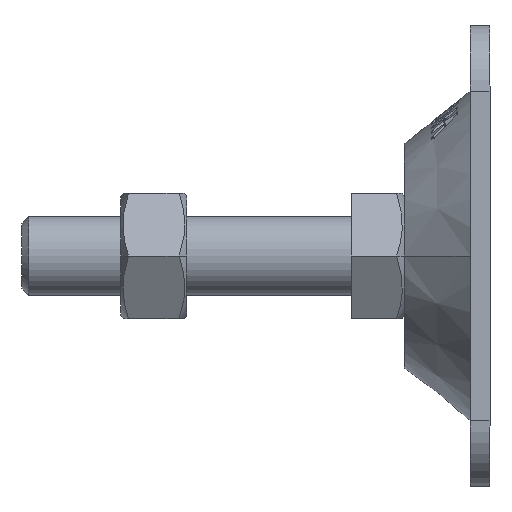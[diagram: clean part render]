
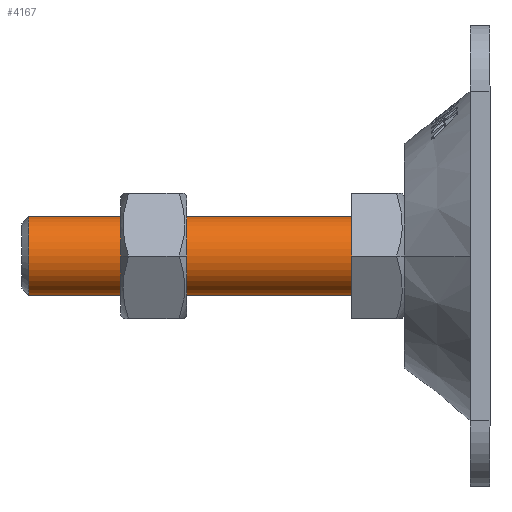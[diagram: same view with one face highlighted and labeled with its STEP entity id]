
A CAD part, left-side view. The second image highlights one B-rep face of the part: STEP entity #4167.
In plain terms, the highlighted cylindrical face has radius 6 mm (diameter 12 mm), a partial arc.
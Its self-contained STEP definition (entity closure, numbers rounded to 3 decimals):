
#15 = EDGE_CURVE ( 'NONE', #5424, #5632, #725, .T. ) ;
#20 = ORIENTED_EDGE ( 'NONE', *, *, #4378, .T. ) ;
#238 = DIRECTION ( 'NONE',  ( 0., -1., 0. ) ) ;
#263 = ORIENTED_EDGE ( 'NONE', *, *, #15, .T. ) ;
#447 = CARTESIAN_POINT ( 'NONE',  ( 0., 57., -6. ) ) ;
#681 = DIRECTION ( 'NONE',  ( 0., 0., -1. ) ) ;
#690 = CYLINDRICAL_SURFACE ( 'NONE', #3341, 6. ) ;
#725 = CIRCLE ( 'NONE', #2249, 6. ) ;
#956 = VECTOR ( 'NONE', #1659, 1000. ) ;
#1014 = EDGE_CURVE ( 'NONE', #4601, #5632, #4892, .T. ) ;
#1659 = DIRECTION ( 'NONE',  ( 0., -1., 0. ) ) ;
#2064 = CARTESIAN_POINT ( 'NONE',  ( 0., 6., 0. ) ) ;
#2119 = ORIENTED_EDGE ( 'NONE', *, *, #4583, .T. ) ;
#2249 = AXIS2_PLACEMENT_3D ( 'NONE', #4437, #3983, #3502 ) ;
#2477 = DIRECTION ( 'NONE',  ( 0., -1., 0. ) ) ;
#2862 = AXIS2_PLACEMENT_3D ( 'NONE', #3786, #238, #681 ) ;
#2985 = DIRECTION ( 'NONE',  ( 0., -1., 0. ) ) ;
#3341 = AXIS2_PLACEMENT_3D ( 'NONE', #2064, #2985, #3884 ) ;
#3353 = CARTESIAN_POINT ( 'NONE',  ( 0., 8., 6. ) ) ;
#3441 = CARTESIAN_POINT ( 'NONE',  ( 0., 6., 6. ) ) ;
#3502 = DIRECTION ( 'NONE',  ( 0., 0., 1. ) ) ;
#3508 = CARTESIAN_POINT ( 'NONE',  ( 0., 8., -6. ) ) ;
#3543 = CIRCLE ( 'NONE', #2862, 6. ) ;
#3667 = ORIENTED_EDGE ( 'NONE', *, *, #1014, .F. ) ;
#3693 = EDGE_LOOP ( 'NONE', ( #3667, #20, #2119, #263 ) ) ;
#3786 = CARTESIAN_POINT ( 'NONE',  ( 0., 57., 0. ) ) ;
#3884 = DIRECTION ( 'NONE',  ( 0., 0., -1. ) ) ;
#3983 = DIRECTION ( 'NONE',  ( 0., 1., 0. ) ) ;
#4167 = ADVANCED_FACE ( 'NONE', ( #5278 ), #690, .T. ) ;
#4311 = CARTESIAN_POINT ( 'NONE',  ( 0., 57., 6. ) ) ;
#4378 = EDGE_CURVE ( 'NONE', #4601, #5709, #3543, .T. ) ;
#4437 = CARTESIAN_POINT ( 'NONE',  ( 0., 8., 0. ) ) ;
#4583 = EDGE_CURVE ( 'NONE', #5709, #5424, #4626, .T. ) ;
#4601 = VERTEX_POINT ( 'NONE', #4311 ) ;
#4626 = LINE ( 'NONE', #4832, #956 ) ;
#4736 = VECTOR ( 'NONE', #2477, 1000. ) ;
#4832 = CARTESIAN_POINT ( 'NONE',  ( 0., 6., -6. ) ) ;
#4892 = LINE ( 'NONE', #3441, #4736 ) ;
#5278 = FACE_OUTER_BOUND ( 'NONE', #3693, .T. ) ;
#5424 = VERTEX_POINT ( 'NONE', #3508 ) ;
#5632 = VERTEX_POINT ( 'NONE', #3353 ) ;
#5709 = VERTEX_POINT ( 'NONE', #447 ) ;
